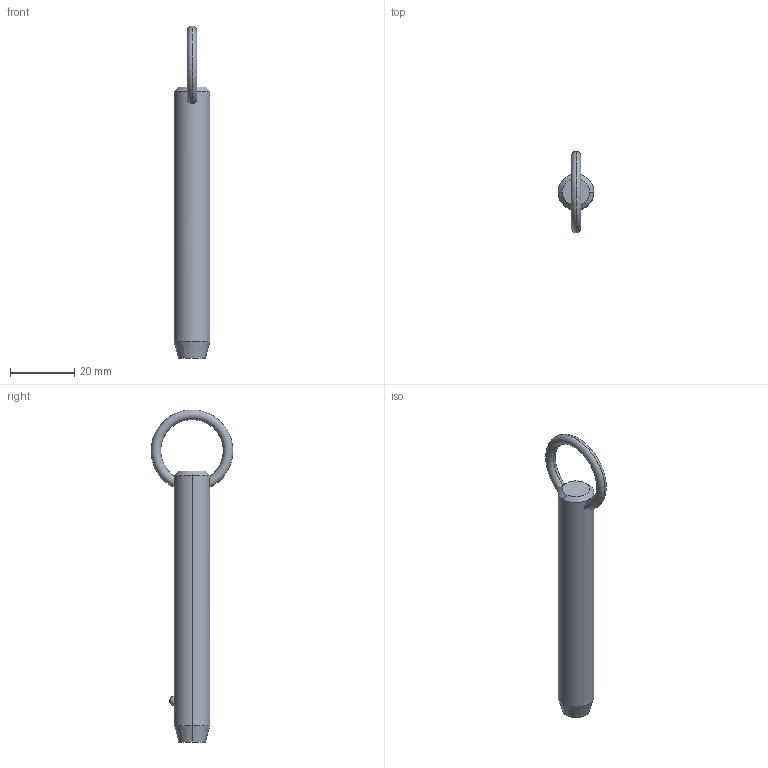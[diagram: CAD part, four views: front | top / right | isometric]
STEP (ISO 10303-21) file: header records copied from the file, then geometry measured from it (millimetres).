
FILE_DESCRIPTION (( 'STEP AP203' ), '1' );
FILE_NAME ('P1250.050-250.step', '2019-07-29T20:32:31', ( '' ), ( '' ), 'SwSTEP 2.0', 'SolidWorks 2017', '' );
FILE_SCHEMA (( 'CONFIG_CONTROL_DESIGN' ));
Length unit declared in the file: millimetre
Products named in the file (1): P1250.050-250
Bounding box: 11.1 x 25.32 x 103.05 mm (x, y, z)
Volume: 8421 mm3; surface area: 3585.4 mm2
Topology: 1 solids, 1 shells, 12 faces, 28 edges, 17 vertices
Faces by surface type: cone 4, torus 2, sphere 2, cylinder 2, plane 2
Entity records: 523 total; most frequent: CARTESIAN_POINT 190, DIRECTION 56, ORIENTED_EDGE 48, AXIS2_PLACEMENT_3D 25, EDGE_CURVE 24, VERTEX_POINT 15, EDGE_LOOP 15, CIRCLE 12
